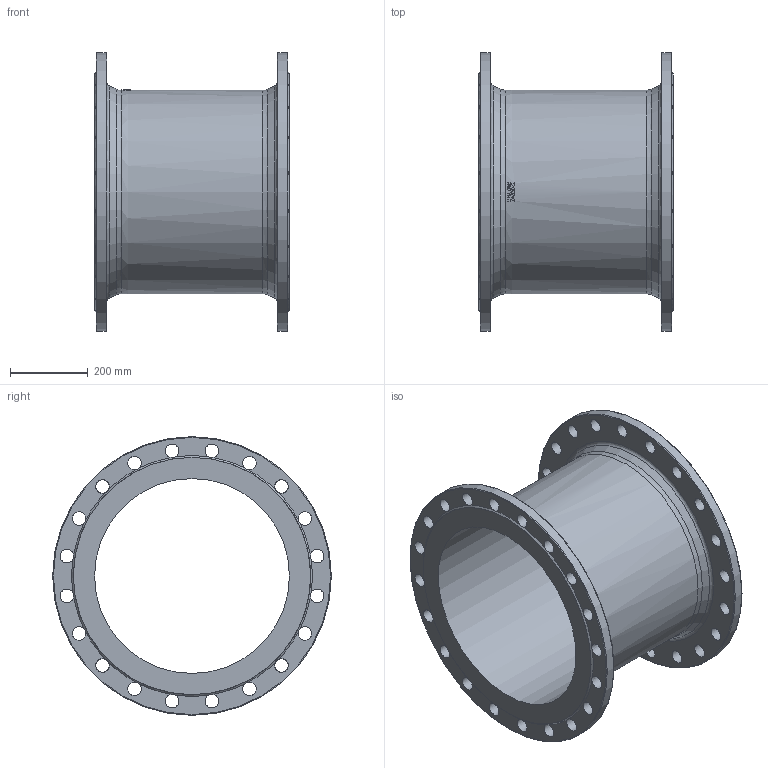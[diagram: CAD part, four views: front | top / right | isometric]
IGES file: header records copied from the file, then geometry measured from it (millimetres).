
Start section: SolidWorks IGES file using analytic representation for surfaces
Global section: file name: \\avksan2\techshare\PBM outline export from Enovia\O_712_4810_DN500_1X_REV01.igs; native system: SolidWorks 2019; preprocessor: SolidWorks 2019; author: pbm; date: 211202.090935; units: millimetre
Bounding box: 500 x 715 x 715 mm (x, y, z)
Surface area: 2414764.1 mm2 (no closed solid volume)
Topology: 0 solids, 0 shells, 103 faces, 685 edges, 628 vertices
Faces by surface type: revolution 60, bspline 43
